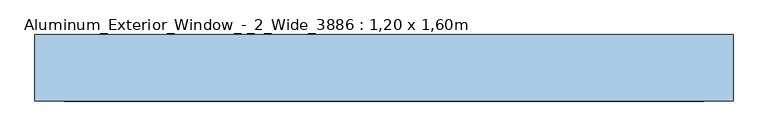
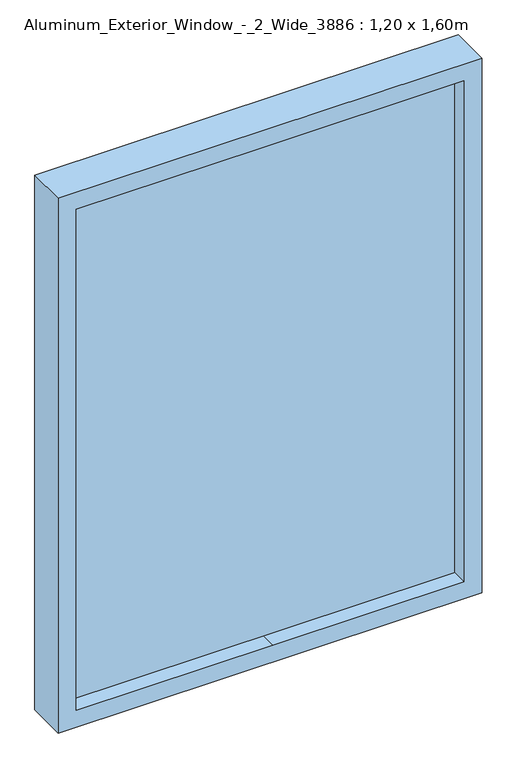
"""IFC4 building model written with IfcOpenShell, lengths in millimetres: window geometry, Aluminum_Exterior_Window_-_2_Wide_3886 : 1,20 x 1,60m."""

from ifc_helpers import new_model, si_unit, frame, origin, place, context, project, spatial, polyline, outline, extrude, source, transform, mapped, element, save


def aluminum_exterior_window_2_wide_3886_1_20_x_1_60m_92f5631a(model_context):
    return source(origin(), model_context, "Body", "SweptSolid", [
        extrude(outline(polyline([(2616.0, -1371.6), (1016.0, -1371.6), (1016.0, -171.6), (2616.0, -171.6), (2616.0, -1371.6)]), holes=[polyline([(2565.2, -797.0), (2565.2, -222.4), (1066.8, -222.4), (1066.8, -763.8808837), (1066.8, -1320.8), (2565.2, -1320.8), (2565.2, -797.0)])]), frame((0.0, -38.1424754, 0.0), z_axis=(0.0, 1.0, 0.0), x_axis=(0.0, 0.0, 1.0)), (0.0, 0.0, 1.0), 114.3),
        extrude(outline(polyline([(2565.2, -797.0), (2565.2, -1320.8), (1066.8, -1320.8), (1066.8, -770.891469), (1066.8, -222.4), (2565.2, -222.4), (2565.2, -797.0)])), frame((0.0, 6.3075246, 0.0), z_axis=(0.0, 1.0, 0.0), x_axis=(0.0, 0.0, 1.0)), (0.0, 0.0, 1.0), 25.4),
    ])


if __name__ == "__main__":
    model = new_model("IFC4")
    model_context = context("Model", 3, world=origin())
    ifc_project = project(units=[si_unit("LENGTHUNIT", "METRE", prefix="MILLI")], contexts=[model_context])
    site = spatial("IfcSite", under=ifc_project)
    building = spatial("IfcBuilding", under=site)
    placement = place(None, origin())
    aluminum_exterior_window_2_wide_3886_1_20_x_1_60m_shape = aluminum_exterior_window_2_wide_3886_1_20_x_1_60m_92f5631a(model_context)
    element("IfcWindow", 1, ObjectType="Aluminum_Exterior_Window_-_2_Wide_3886 : 1,20 x 1,60m", at=placement, inside=building, context=model_context, shape_type="MappedRepresentation", body=[
        mapped(aluminum_exterior_window_2_wide_3886_1_20_x_1_60m_shape, transform((0.0, 0.0, 0.0), x_axis=(1.0, 0.0, 0.0), y_axis=(0.0, 1.0, 0.0), z_axis=(0.0, 0.0, 1.0))),
    ])
    save(model, "model.ifc")
